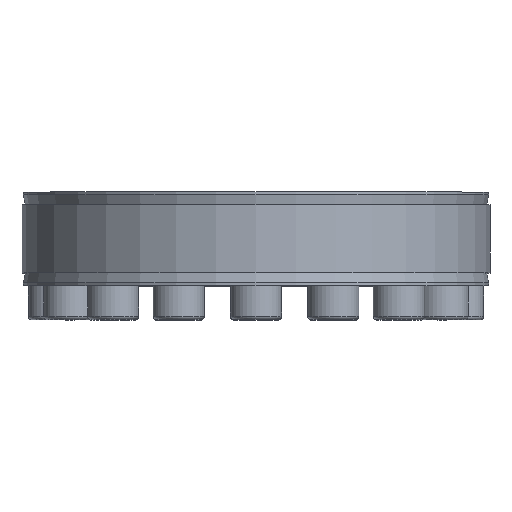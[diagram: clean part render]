
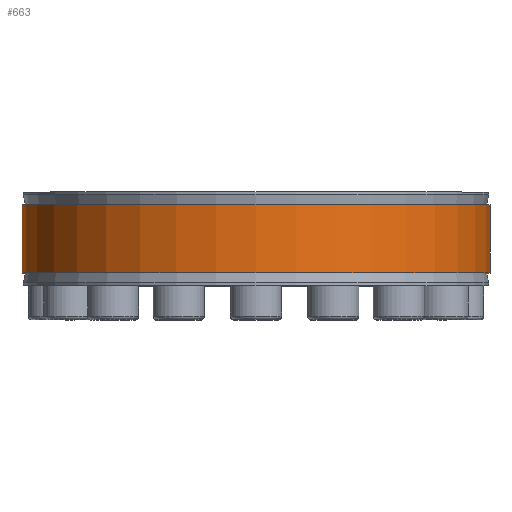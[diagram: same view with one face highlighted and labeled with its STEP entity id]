
A CAD part, top view. The second image highlights one B-rep face of the part: STEP entity #663.
In plain terms, the highlighted cylindrical face has radius 82.5 mm (diameter 165 mm), a partial arc.
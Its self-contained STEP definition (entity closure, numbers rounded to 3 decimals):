
#663 = ADVANCED_FACE( '', ( #1304 ), #1305, .T. );
#1304 = FACE_OUTER_BOUND( '', #2429, .T. );
#1305 = CYLINDRICAL_SURFACE( '', #2430, 82.5 );
#2429 = EDGE_LOOP( '', ( #3647, #3648, #3649, #3650 ) );
#2430 = AXIS2_PLACEMENT_3D( '', #3651, #3652, #3653 );
#3647 = ORIENTED_EDGE( '', *, *, #6218, .F. );
#3648 = ORIENTED_EDGE( '', *, *, #6219, .T. );
#3649 = ORIENTED_EDGE( '', *, *, #6220, .T. );
#3650 = ORIENTED_EDGE( '', *, *, #6221, .F. );
#3651 = CARTESIAN_POINT( '', ( 0., -60., 0. ) );
#3652 = DIRECTION( '', ( 0., -1., 0. ) );
#3653 = DIRECTION( '', ( 0., 0., 1. ) );
#6218 = EDGE_CURVE( '', #6953, #6954, #6955, .F. );
#6219 = EDGE_CURVE( '', #6953, #6956, #6957, .T. );
#6220 = EDGE_CURVE( '', #6956, #6958, #6959, .F. );
#6221 = EDGE_CURVE( '', #6954, #6958, #6960, .T. );
#6953 = VERTEX_POINT( '', #8009 );
#6954 = VERTEX_POINT( '', #8010 );
#6955 = LINE( '', #8011, #8012 );
#6956 = VERTEX_POINT( '', #8013 );
#6957 = CIRCLE( '', #8014, 82.5 );
#6958 = VERTEX_POINT( '', #8015 );
#6959 = LINE( '', #8016, #8017 );
#6960 = CIRCLE( '', #8018, 82.5 );
#8009 = CARTESIAN_POINT( '', ( 1.375, 12., -82.489 ) );
#8010 = CARTESIAN_POINT( '', ( 1.375, -12., -82.489 ) );
#8011 = CARTESIAN_POINT( '', ( 1.375, -60., -82.489 ) );
#8012 = VECTOR( '', #9964, 1000. );
#8013 = CARTESIAN_POINT( '', ( -1.375, 12., -82.489 ) );
#8014 = AXIS2_PLACEMENT_3D( '', #9965, #9966, #9967 );
#8015 = CARTESIAN_POINT( '', ( -1.375, -12., -82.489 ) );
#8016 = CARTESIAN_POINT( '', ( -1.375, -60., -82.489 ) );
#8017 = VECTOR( '', #9968, 1000. );
#8018 = AXIS2_PLACEMENT_3D( '', #9969, #9970, #9971 );
#9964 = DIRECTION( '', ( 0., 1., 0. ) );
#9965 = CARTESIAN_POINT( '', ( 0., 12., 0. ) );
#9966 = DIRECTION( '', ( 0., -1., 0. ) );
#9967 = DIRECTION( '', ( 0., 0., -1. ) );
#9968 = DIRECTION( '', ( 0., 1., 0. ) );
#9969 = CARTESIAN_POINT( '', ( 0., -12., 0. ) );
#9970 = DIRECTION( '', ( 0., -1., 0. ) );
#9971 = DIRECTION( '', ( 0., 0., -1. ) );
